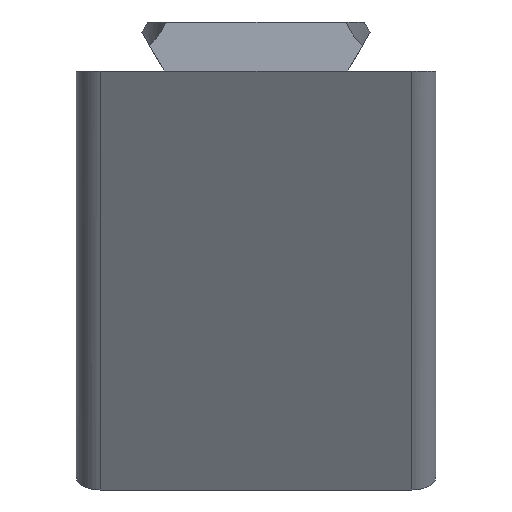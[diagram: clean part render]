
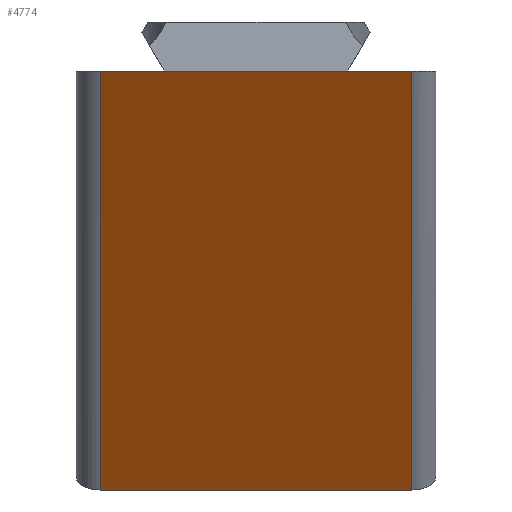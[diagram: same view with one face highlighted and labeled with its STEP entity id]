
A CAD part, left-side view. The second image highlights one B-rep face of the part: STEP entity #4774.
In plain terms, the highlighted planar face has unit normal (-0.829, 0, -0.559).
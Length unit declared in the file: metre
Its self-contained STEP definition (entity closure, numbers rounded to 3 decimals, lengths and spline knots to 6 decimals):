
#664=ORIENTED_EDGE('',*,*,#1868,.T.);
#665=ORIENTED_EDGE('',*,*,#2079,.T.);
#666=ORIENTED_EDGE('',*,*,#1821,.F.);
#667=ORIENTED_EDGE('',*,*,#2080,.T.);
#668=ORIENTED_EDGE('',*,*,#1886,.T.);
#669=ORIENTED_EDGE('',*,*,#2074,.T.);
#1821=EDGE_CURVE('',#2545,#2546,#3027,.T.);
#1868=EDGE_CURVE('',#2593,#2592,#3051,.T.);
#1886=EDGE_CURVE('',#2611,#2610,#3062,.T.);
#2074=EDGE_CURVE('',#2610,#2593,#3164,.T.);
#2079=EDGE_CURVE('',#2592,#2546,#3165,.T.);
#2080=EDGE_CURVE('',#2545,#2611,#3166,.F.);
#2545=VERTEX_POINT('',#6479);
#2546=VERTEX_POINT('',#6481);
#2592=VERTEX_POINT('',#6577);
#2593=VERTEX_POINT('',#6579);
#2610=VERTEX_POINT('',#6613);
#2611=VERTEX_POINT('',#6615);
#3027=LINE('',#6480,#3512);
#3051=LINE('',#6578,#3536);
#3062=LINE('',#6614,#3547);
#3164=LINE('',#7105,#3649);
#3165=LINE('',#7116,#3650);
#3166=LINE('',#7117,#3651);
#3512=VECTOR('',#5363,1.);
#3536=VECTOR('',#5441,1.);
#3547=VECTOR('',#5466,1.);
#3649=VECTOR('',#5648,1.);
#3650=VECTOR('',#5665,1.);
#3651=VECTOR('',#5666,1.);
#4036=EDGE_LOOP('',(#664,#665,#666,#667,#668,#669));
#4339=FACE_BOUND('',#4036,.T.);
#4616=PLANE('',#5118);
#4774=ADVANCED_FACE('',(#4339),#4616,.F.);
#5118=AXIS2_PLACEMENT_3D('',#7115,#5663,#5664);
#5363=DIRECTION('',(0.,1.,0.));
#5441=DIRECTION('',(0.,1.,0.));
#5466=DIRECTION('',(0.,1.,0.));
#5648=DIRECTION('',(0.,1.,0.));
#5663=DIRECTION('',(0.829,0.,0.559));
#5664=DIRECTION('',(0.559,0.,-0.829));
#5665=DIRECTION('',(0.559,0.,-0.829));
#5666=DIRECTION('',(0.559,0.,-0.829));
#6479=CARTESIAN_POINT('',(0.023541,-0.013,-0.034901));
#6480=CARTESIAN_POINT('',(0.023541,-0.015,-0.034901));
#6481=CARTESIAN_POINT('',(0.023541,0.013,-0.034901));
#6577=CARTESIAN_POINT('',(0.,0.013,0.));
#6578=CARTESIAN_POINT('',(0.,-0.015,0.));
#6579=CARTESIAN_POINT('',(0.,0.007695,0.));
#6613=CARTESIAN_POINT('',(0.,-0.007695,0.));
#6614=CARTESIAN_POINT('',(0.,-0.015,0.));
#6615=CARTESIAN_POINT('',(0.,-0.013,0.));
#7105=CARTESIAN_POINT('',(0.,0.,0.));
#7115=CARTESIAN_POINT('',(0.01177,-0.015,-0.01745));
#7116=CARTESIAN_POINT('',(0.01177,0.013,-0.01745));
#7117=CARTESIAN_POINT('',(0.,-0.013,0.));
